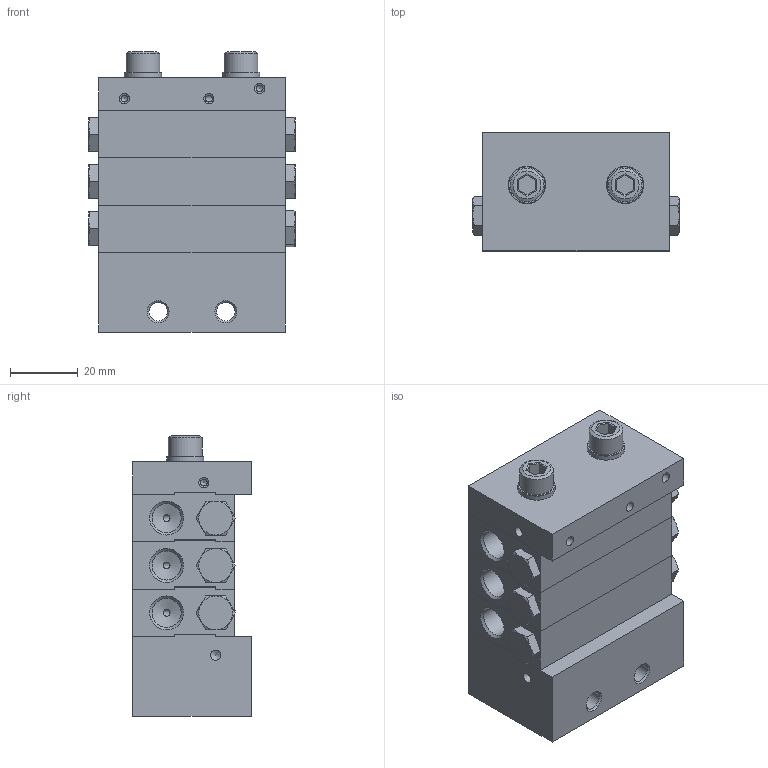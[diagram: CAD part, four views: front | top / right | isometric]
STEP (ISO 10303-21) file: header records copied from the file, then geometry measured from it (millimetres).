
FILE_DESCRIPTION (( 'STEP AP214' ), '1' );
FILE_NAME ('STW_XV_6_Auslässe.STEP', '2025-09-16T10:35:58', ( '' ), ( '' ), 'SwSTEP 2.0', 'SolidWorks 2022', '' );
FILE_SCHEMA (( 'AUTOMOTIVE_DESIGN' ));
Length unit declared in the file: millimetre
Products named in the file (10): STW_XV_6_Auslässe; Verschlussstopfen_1_8; STW_XV_MITTEL_1; STW_XV_END; STW_XV_Kolbenanschlag; STW_XV_ENGANG; M6X65_DIN_912; O_RING_3X1; U_Scheibe_6; STW_XV_Verbindungsstopen
Assembly tree (28 placements, depth 2):
  STW_XV_6_Auslässe
    STW_XV_ENGANG
    O_RING_3X1  x4
    STW_XV_MITTEL_1  x3
    STW_XV_END
    Verschlussstopfen_1_8  x6
    STW_XV_Kolbenanschlag  x6
    STW_XV_Verbindungsstopen  x3
    M6X65_DIN_912  x2
    U_Scheibe_6  x2
Bounding box: 61 x 35 x 82.8 mm (x, y, z)
Volume: 124396.5 mm3; surface area: 55180.5 mm2
Topology: 28 solids, 28 shells, 1104 faces, 2902 edges, 1864 vertices
Faces by surface type: plane 527, cylinder 274, cone 197, bspline 106
Full cylindrical faces by diameter (mm): 2 x89, 3 x10, 5 x38, 5.5 x2, 5.9 x2, 6 x2, 6.2 x8, 6.4 x2, 6.5 x6, 7 x6, 8 x6, 8.4 x3, 8.6 x15, 9 x7, 9.7 x6, 9.73 x3, 10 x8, 11 x2, 15 x1
Entity records: 29776 total; most frequent: CARTESIAN_POINT 17179, ORIENTED_EDGE 2526, DIRECTION 2053, EDGE_CURVE 1263, VERTEX_POINT 896, EDGE_LOOP 821, AXIS2_PLACEMENT_3D 691, VECTOR 671
